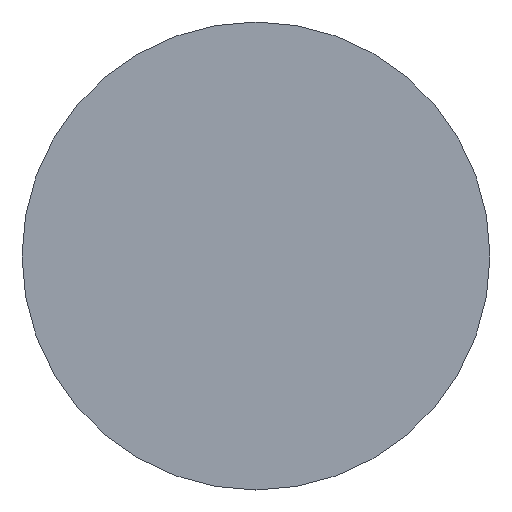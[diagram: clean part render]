
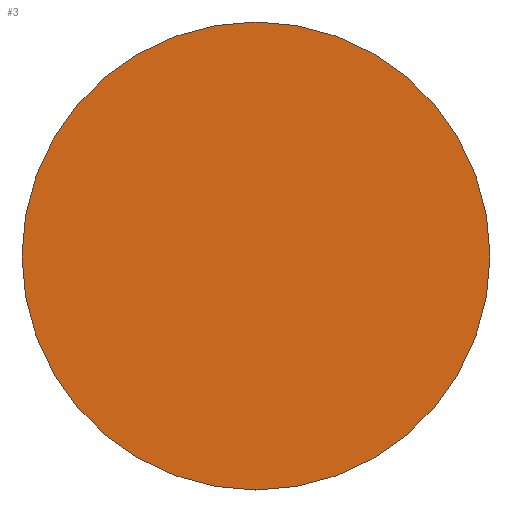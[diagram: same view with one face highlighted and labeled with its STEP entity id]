
A CAD part, left-side view. The second image highlights one B-rep face of the part: STEP entity #3.
In plain terms, the highlighted planar face has unit normal (-1, 0, 0).
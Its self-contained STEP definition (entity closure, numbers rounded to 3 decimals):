
#3 = ADVANCED_FACE ( 'NONE', ( #28 ), #73, .T. ) ;
#28 = FACE_OUTER_BOUND ( 'NONE', #181, .T. ) ;
#32 = CIRCLE ( 'NONE', #152, 7. ) ;
#45 = EDGE_CURVE ( 'NONE', #66, #65, #32, .T. ) ;
#56 = CIRCLE ( 'NONE', #155, 7. ) ;
#65 = VERTEX_POINT ( 'NONE', #103 ) ;
#66 = VERTEX_POINT ( 'NONE', #104 ) ;
#72 = CARTESIAN_POINT ( 'NONE',  ( -74.5, 0., 7. ) ) ;
#73 = PLANE ( 'NONE',  #147 ) ;
#75 = DIRECTION ( 'NONE',  ( -1., 0., 0. ) ) ;
#76 = DIRECTION ( 'NONE',  ( 0., 0., 1. ) ) ;
#98 = CARTESIAN_POINT ( 'NONE',  ( -74.5, 0., 0. ) ) ;
#100 = DIRECTION ( 'NONE',  ( -1., 0., 0. ) ) ;
#101 = DIRECTION ( 'NONE',  ( 0., 0., 1. ) ) ;
#103 = CARTESIAN_POINT ( 'NONE',  ( -74.5, 0., 7. ) ) ;
#104 = CARTESIAN_POINT ( 'NONE',  ( -74.5, 0., -7. ) ) ;
#109 = CARTESIAN_POINT ( 'NONE',  ( -74.5, 0., 0. ) ) ;
#111 = DIRECTION ( 'NONE',  ( -1., 0., 0. ) ) ;
#112 = DIRECTION ( 'NONE',  ( 0., 0., 1. ) ) ;
#143 = EDGE_CURVE ( 'NONE', #65, #66, #56, .T. ) ;
#147 = AXIS2_PLACEMENT_3D ( 'NONE', #72, #75, #76 ) ;
#152 = AXIS2_PLACEMENT_3D ( 'NONE', #98, #100, #101 ) ;
#155 = AXIS2_PLACEMENT_3D ( 'NONE', #109, #111, #112 ) ;
#176 = ORIENTED_EDGE ( 'NONE', *, *, #45, .T. ) ;
#181 = EDGE_LOOP ( 'NONE', ( #188, #176 ) ) ;
#188 = ORIENTED_EDGE ( 'NONE', *, *, #143, .T. ) ;
